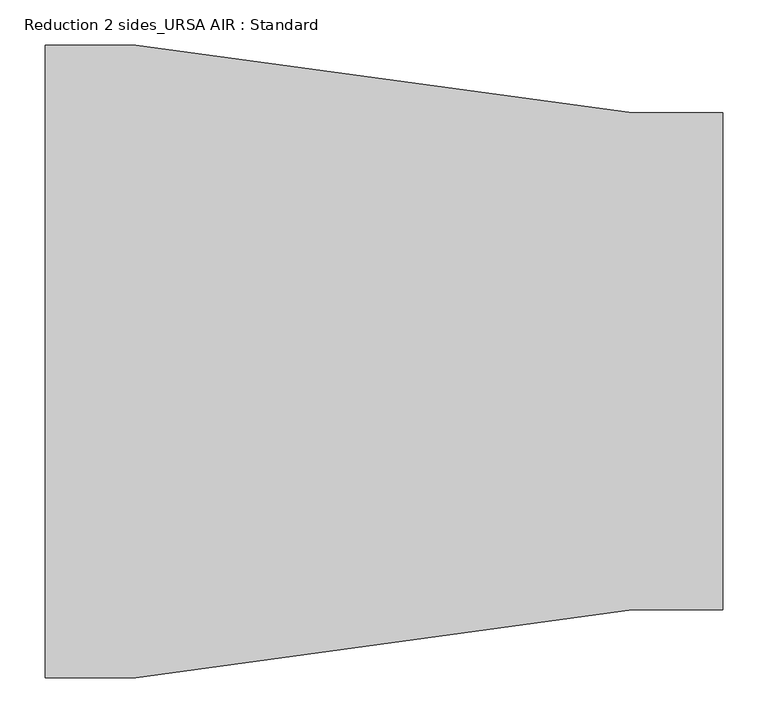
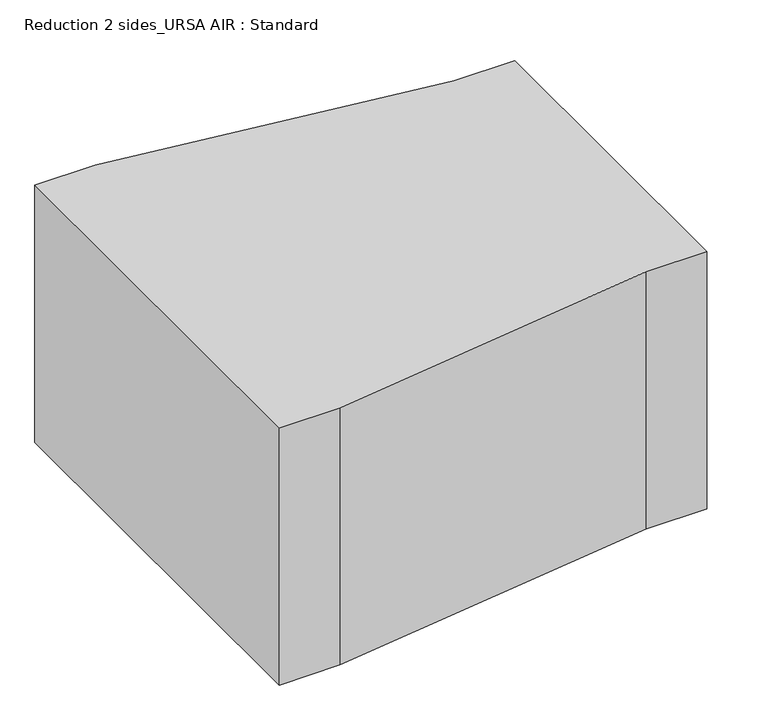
"""IFC4 building model written with IfcOpenShell, lengths in millimetres: duct fitting geometry, Reduction 2 sides_URSA AIR : Standard."""

from ifc_helpers import new_model, si_unit, frame, origin, place, context, project, spatial, polyline, outline, extrude, source, transform, mapped, element, save


def reduction_2_sides_ursa_air_standard_0b0b8173(model_context):
    return source(origin(), model_context, "Body", "SweptSolid", [
        extrude(outline(polyline([(750.0, 275.0), (750.0, -275.0), (650.0, -275.0), (100.0, -350.0), (0.0, -350.0), (0.0, 350.0), (100.0, 350.0), (650.0, 275.0), (750.0, 275.0)])), frame((0.0, 0.0, -225.0), z_axis=(0.0, 0.0, 1.0), x_axis=(1.0, 0.0, 0.0)), (0.0, 0.0, 1.0), 450.0),
    ])


if __name__ == "__main__":
    model = new_model("IFC4")
    model_context = context("Model", 3, world=origin())
    ifc_project = project(units=[si_unit("LENGTHUNIT", "METRE", prefix="MILLI")], contexts=[model_context])
    site = spatial("IfcSite", under=ifc_project)
    building = spatial("IfcBuilding", under=site)
    placement = place(None, origin())
    reduction_2_sides_ursa_air_standard_shape = reduction_2_sides_ursa_air_standard_0b0b8173(model_context)
    element("IfcDuctFitting", 1, ObjectType="Reduction 2 sides_URSA AIR : Standard", at=placement, inside=building, context=model_context, shape_type="MappedRepresentation", body=[
        mapped(reduction_2_sides_ursa_air_standard_shape, transform((0.0, 0.0, 0.0), x_axis=(1.0, 0.0, 0.0), y_axis=(0.0, 1.0, 0.0), z_axis=(0.0, 0.0, 1.0))),
    ])
    save(model, "model.ifc")
